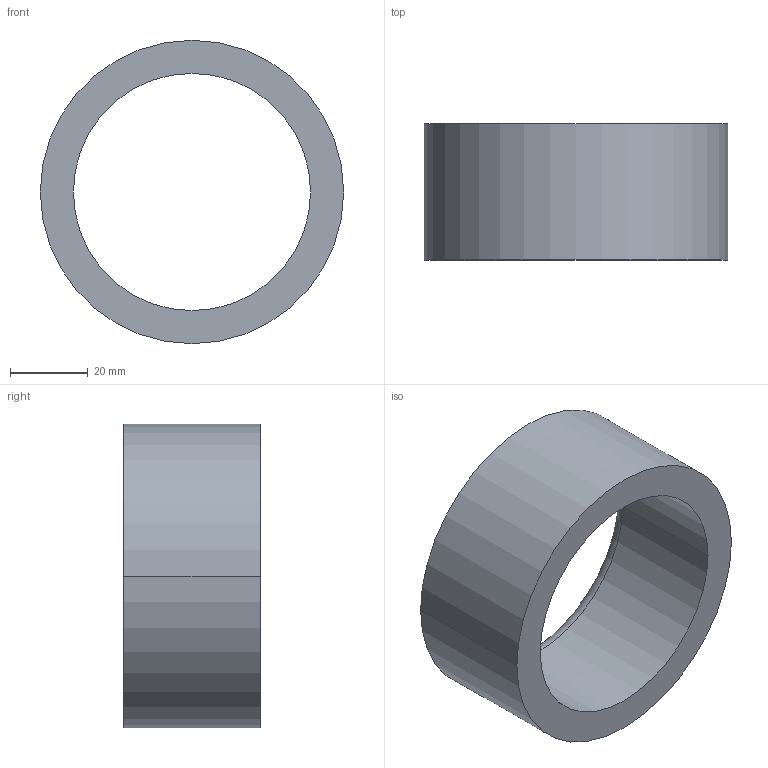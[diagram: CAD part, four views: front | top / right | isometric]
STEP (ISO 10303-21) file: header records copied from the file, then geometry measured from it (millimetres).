
FILE_DESCRIPTION (( 'STEP AP203' ), '1' );
FILE_NAME ('30800.WPP78M61.0.step', '2019-01-23T23:04:20', ( '' ), ( '' ), 'SwSTEP 2.0', 'SolidWorks 2017', '' );
FILE_SCHEMA (( 'CONFIG_CONTROL_DESIGN' ));
Length unit declared in the file: millimetre
Products named in the file (1): 30800.WPP78M61.0
Bounding box: 78 x 35 x 78 mm (x, y, z)
Volume: 64279.1 mm3; surface area: 18673.8 mm2
Topology: 1 solids, 1 shells, 8 faces, 16 edges, 10 vertices
Faces by surface type: cylinder 4, torus 2, plane 2
Entity records: 297 total; most frequent: DIRECTION 46, CARTESIAN_POINT 35, ORIENTED_EDGE 32, AXIS2_PLACEMENT_3D 21, EDGE_CURVE 16, CIRCLE 12, VERTEX_POINT 10, EDGE_LOOP 10
